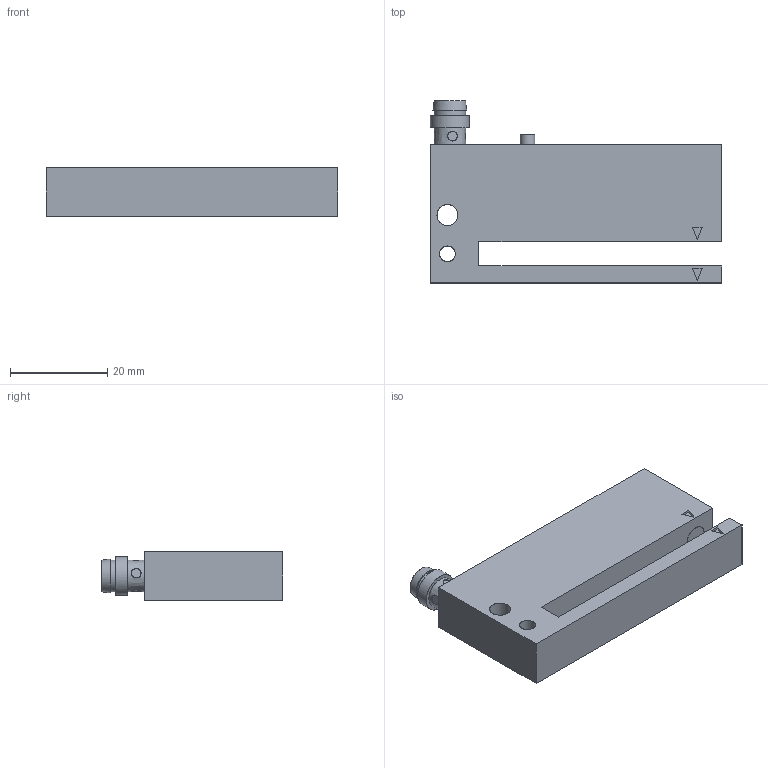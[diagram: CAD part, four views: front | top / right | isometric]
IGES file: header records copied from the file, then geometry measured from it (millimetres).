
Start section: C
Global section: file name: OL05.x–xxxx.7xN.igs,2; native system: 7HBy Siemens PLM Incorporated; preprocessor: XPlus GENERIC/IGES 19.0.9; author: Author; organization: Title; date: 20200918.084821; units: millimetre
Bounding box: 60 x 37.5 x 10 mm (x, y, z)
Surface area: 6100.5 mm2 (no closed solid volume)
Topology: 0 solids, 0 shells, 79 faces, 379 edges, 379 vertices
Faces by surface type: bspline 79
